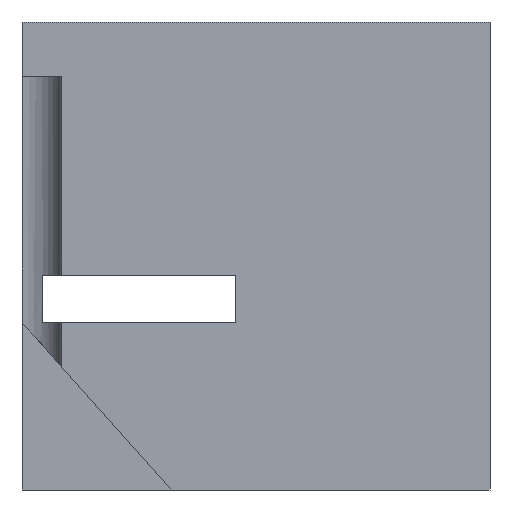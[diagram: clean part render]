
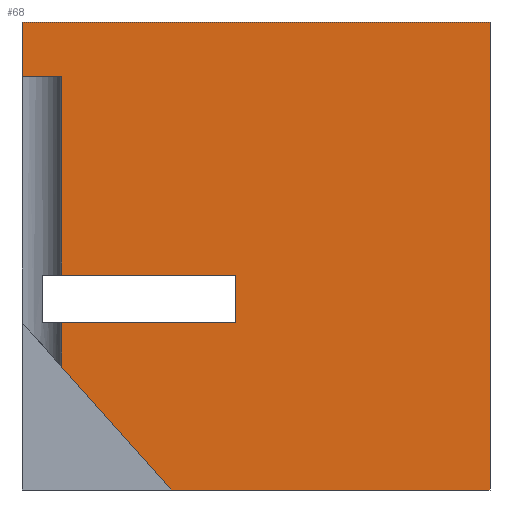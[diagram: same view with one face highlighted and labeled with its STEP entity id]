
A CAD part, front view. The second image highlights one B-rep face of the part: STEP entity #68.
In plain terms, the highlighted planar face has unit normal (0, -1, 0).
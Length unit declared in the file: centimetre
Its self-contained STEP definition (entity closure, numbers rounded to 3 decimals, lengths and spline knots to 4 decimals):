
#3 = VECTOR ( 'NONE', #106, 100. ) ;
#6 = EDGE_CURVE ( 'NONE', #398, #196, #59, .T. ) ;
#23 = ORIENTED_EDGE ( 'NONE', *, *, #277, .F. ) ;
#33 = CARTESIAN_POINT ( 'NONE',  ( 85.4352, 0., 884.0603 ) ) ;
#49 = VERTEX_POINT ( 'NONE', #399 ) ;
#53 = CARTESIAN_POINT ( 'NONE',  ( 456.871, 0., 459.297 ) ) ;
#57 = CARTESIAN_POINT ( 'NONE',  ( 0., 0., 1000. ) ) ;
#59 = LINE ( 'NONE', #72, #177 ) ;
#66 = DIRECTION ( 'NONE',  ( 0., 0., -1. ) ) ;
#68 = ADVANCED_FACE ( 'NONE', ( #181 ), #587, .F. ) ;
#70 = LINE ( 'NONE', #339, #143 ) ;
#72 = CARTESIAN_POINT ( 'NONE',  ( 456.871, 0., 357.6396 ) ) ;
#80 = CARTESIAN_POINT ( 'NONE',  ( 0., 0., 358.5337 ) ) ;
#83 = VECTOR ( 'NONE', #573, 100. ) ;
#85 = DIRECTION ( 'NONE',  ( 1., 0., 0. ) ) ;
#91 = LINE ( 'NONE', #80, #435 ) ;
#99 = VECTOR ( 'NONE', #307, 100. ) ;
#101 = EDGE_CURVE ( 'NONE', #494, #176, #91, .T. ) ;
#106 = DIRECTION ( 'NONE',  ( 0., 0., -1. ) ) ;
#107 = ORIENTED_EDGE ( 'NONE', *, *, #513, .T. ) ;
#132 = VERTEX_POINT ( 'NONE', #33 ) ;
#143 = VECTOR ( 'NONE', #570, 100. ) ;
#144 = EDGE_CURVE ( 'NONE', #494, #298, #174, .T. ) ;
#146 = CARTESIAN_POINT ( 'NONE',  ( 1000., 0., 1000. ) ) ;
#154 = EDGE_CURVE ( 'NONE', #132, #381, #178, .T. ) ;
#164 = CARTESIAN_POINT ( 'NONE',  ( 0., 0., 884.0603 ) ) ;
#170 = DIRECTION ( 'NONE',  ( 0., 1., 0. ) ) ;
#174 = LINE ( 'NONE', #487, #510 ) ;
#176 = VERTEX_POINT ( 'NONE', #512 ) ;
#177 = VECTOR ( 'NONE', #251, 100. ) ;
#178 = LINE ( 'NONE', #358, #315 ) ;
#181 = FACE_OUTER_BOUND ( 'NONE', #504, .T. ) ;
#190 = VECTOR ( 'NONE', #369, 100. ) ;
#196 = VERTEX_POINT ( 'NONE', #53 ) ;
#208 = ORIENTED_EDGE ( 'NONE', *, *, #6, .F. ) ;
#212 = LINE ( 'NONE', #388, #421 ) ;
#224 = DIRECTION ( 'NONE',  ( -1., 0., 0. ) ) ;
#227 = CARTESIAN_POINT ( 'NONE',  ( 0., 0., 1000. ) ) ;
#249 = CARTESIAN_POINT ( 'NONE',  ( 318.7332, 0., 0. ) ) ;
#251 = DIRECTION ( 'NONE',  ( 0., 0., 1. ) ) ;
#266 = DIRECTION ( 'NONE',  ( -0.664, 0., 0.747 ) ) ;
#277 = EDGE_CURVE ( 'NONE', #482, #298, #328, .T. ) ;
#286 = CARTESIAN_POINT ( 'NONE',  ( 0., 0., 1000. ) ) ;
#298 = VERTEX_POINT ( 'NONE', #375 ) ;
#300 = ORIENTED_EDGE ( 'NONE', *, *, #390, .T. ) ;
#303 = AXIS2_PLACEMENT_3D ( 'NONE', #227, #170, #348 ) ;
#307 = DIRECTION ( 'NONE',  ( 0., 0., -1. ) ) ;
#311 = EDGE_CURVE ( 'NONE', #336, #381, #598, .T. ) ;
#315 = VECTOR ( 'NONE', #224, 100. ) ;
#328 = LINE ( 'NONE', #146, #190 ) ;
#329 = ORIENTED_EDGE ( 'NONE', *, *, #154, .F. ) ;
#330 = VECTOR ( 'NONE', #397, 100. ) ;
#335 = CARTESIAN_POINT ( 'NONE',  ( 44.467, 0., 459.297 ) ) ;
#336 = VERTEX_POINT ( 'NONE', #57 ) ;
#339 = CARTESIAN_POINT ( 'NONE',  ( 0., 0., 1000. ) ) ;
#343 = LINE ( 'NONE', #335, #330 ) ;
#348 = DIRECTION ( 'NONE',  ( 0., 0., 1. ) ) ;
#355 = CARTESIAN_POINT ( 'NONE',  ( 85.4352, 0., 884.0603 ) ) ;
#358 = CARTESIAN_POINT ( 'NONE',  ( 0., 0., 884.0603 ) ) ;
#360 = EDGE_CURVE ( 'NONE', #196, #49, #343, .T. ) ;
#369 = DIRECTION ( 'NONE',  ( 0., 0., -1. ) ) ;
#375 = CARTESIAN_POINT ( 'NONE',  ( 1000., 0., 0. ) ) ;
#381 = VERTEX_POINT ( 'NONE', #164 ) ;
#388 = CARTESIAN_POINT ( 'NONE',  ( 85.4352, 0., 884.0603 ) ) ;
#390 = EDGE_CURVE ( 'NONE', #132, #49, #212, .T. ) ;
#397 = DIRECTION ( 'NONE',  ( -1., 0., 0. ) ) ;
#398 = VERTEX_POINT ( 'NONE', #530 ) ;
#399 = CARTESIAN_POINT ( 'NONE',  ( 85.4352, 0., 459.297 ) ) ;
#421 = VECTOR ( 'NONE', #66, 100. ) ;
#428 = ORIENTED_EDGE ( 'NONE', *, *, #431, .F. ) ;
#431 = EDGE_CURVE ( 'NONE', #336, #482, #70, .T. ) ;
#432 = CARTESIAN_POINT ( 'NONE',  ( 44.467, 0., 357.6396 ) ) ;
#433 = ORIENTED_EDGE ( 'NONE', *, *, #470, .F. ) ;
#435 = VECTOR ( 'NONE', #266, 100. ) ;
#445 = ORIENTED_EDGE ( 'NONE', *, *, #360, .F. ) ;
#469 = ORIENTED_EDGE ( 'NONE', *, *, #101, .F. ) ;
#470 = EDGE_CURVE ( 'NONE', #579, #398, #485, .T. ) ;
#475 = LINE ( 'NONE', #355, #99 ) ;
#481 = CARTESIAN_POINT ( 'NONE',  ( 1000., 0., 1000. ) ) ;
#482 = VERTEX_POINT ( 'NONE', #481 ) ;
#485 = LINE ( 'NONE', #432, #83 ) ;
#487 = CARTESIAN_POINT ( 'NONE',  ( 0., 0., 0. ) ) ;
#494 = VERTEX_POINT ( 'NONE', #249 ) ;
#496 = ORIENTED_EDGE ( 'NONE', *, *, #144, .T. ) ;
#499 = ORIENTED_EDGE ( 'NONE', *, *, #311, .T. ) ;
#504 = EDGE_LOOP ( 'NONE', ( #300, #445, #208, #433, #107, #469, #496, #23, #428, #499, #329 ) ) ;
#510 = VECTOR ( 'NONE', #85, 100. ) ;
#512 = CARTESIAN_POINT ( 'NONE',  ( 85.4352, 0., 262.4301 ) ) ;
#513 = EDGE_CURVE ( 'NONE', #579, #176, #475, .T. ) ;
#530 = CARTESIAN_POINT ( 'NONE',  ( 456.871, 0., 357.6396 ) ) ;
#570 = DIRECTION ( 'NONE',  ( 1., 0., 0. ) ) ;
#573 = DIRECTION ( 'NONE',  ( 1., 0., 0. ) ) ;
#577 = CARTESIAN_POINT ( 'NONE',  ( 85.4352, 0., 357.6396 ) ) ;
#579 = VERTEX_POINT ( 'NONE', #577 ) ;
#587 = PLANE ( 'NONE',  #303 ) ;
#598 = LINE ( 'NONE', #286, #3 ) ;
